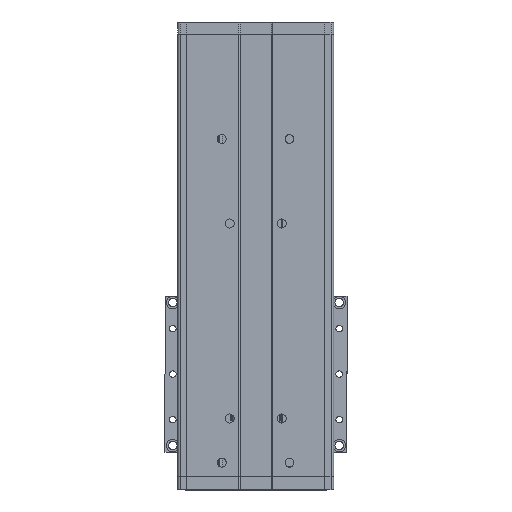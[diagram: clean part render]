
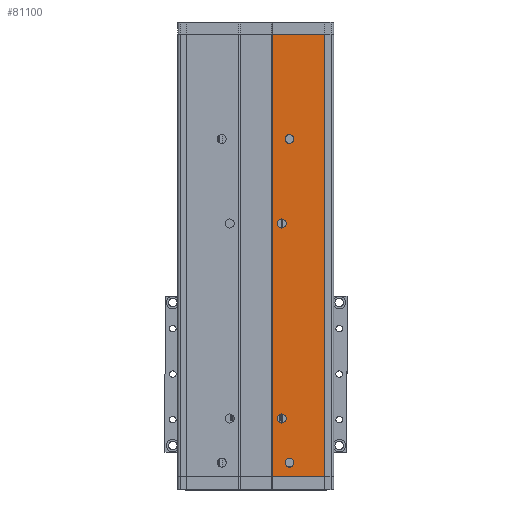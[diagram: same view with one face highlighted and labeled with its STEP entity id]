
A CAD part, front view. The second image highlights one B-rep face of the part: STEP entity #81100.
In plain terms, the highlighted planar face has unit normal (0, -1, 0).
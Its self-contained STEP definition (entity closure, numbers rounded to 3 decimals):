
#1641 = PLANE ( 'NONE',  #32816 ) ;
#1648 = FACE_BOUND ( 'NONE', #117626, .T. ) ;
#1696 = DIRECTION ( 'NONE',  ( 0., 1., 0. ) ) ;
#1882 = DIRECTION ( 'NONE',  ( 1., 0., 0. ) ) ;
#3020 = CARTESIAN_POINT ( 'NONE',  ( 38.31, -28.09, 260. ) ) ;
#5729 = DIRECTION ( 'NONE',  ( 0., 0., -1. ) ) ;
#6314 = AXIS2_PLACEMENT_3D ( 'NONE', #12630, #81931, #22579 ) ;
#7341 = EDGE_CURVE ( 'NONE', #93648, #80914, #27056, .T. ) ;
#7578 = EDGE_LOOP ( 'NONE', ( #73371, #21818 ) ) ;
#8460 = ORIENTED_EDGE ( 'NONE', *, *, #27879, .T. ) ;
#9370 = CARTESIAN_POINT ( 'NONE',  ( 32.31, -28.09, 48.5 ) ) ;
#9513 = VERTEX_POINT ( 'NONE', #40676 ) ;
#9608 = VERTEX_POINT ( 'NONE', #121210 ) ;
#10252 = AXIS2_PLACEMENT_3D ( 'NONE', #89821, #30478, #99817 ) ;
#11600 = DIRECTION ( 'NONE',  ( 0., 1., 0. ) ) ;
#12630 = CARTESIAN_POINT ( 'NONE',  ( 38.31, -28.09, 11. ) ) ;
#13024 = DIRECTION ( 'NONE',  ( 0., 0., 1. ) ) ;
#13619 = ORIENTED_EDGE ( 'NONE', *, *, #124276, .T. ) ;
#14306 = EDGE_CURVE ( 'NONE', #123523, #9513, #63266, .T. ) ;
#17138 = ORIENTED_EDGE ( 'NONE', *, *, #57647, .F. ) ;
#17537 = EDGE_CURVE ( 'NONE', #71775, #36562, #70233, .T. ) ;
#17565 = CARTESIAN_POINT ( 'NONE',  ( 32.31, -28.09, 195. ) ) ;
#21767 = FACE_BOUND ( 'NONE', #7578, .T. ) ;
#21818 = ORIENTED_EDGE ( 'NONE', *, *, #37531, .F. ) ;
#22579 = DIRECTION ( 'NONE',  ( 0., 0., 1. ) ) ;
#24185 = LINE ( 'NONE', #74619, #76897 ) ;
#26236 = ORIENTED_EDGE ( 'NONE', *, *, #32030, .T. ) ;
#27056 = CIRCLE ( 'NONE', #6314, 3.4 ) ;
#27541 = DIRECTION ( 'NONE',  ( 0., 0., 1. ) ) ;
#27684 = CARTESIAN_POINT ( 'NONE',  ( 32.31, -28.09, 191.5 ) ) ;
#27879 = EDGE_CURVE ( 'NONE', #9608, #89240, #60793, .T. ) ;
#30361 = EDGE_LOOP ( 'NONE', ( #13619, #8460 ) ) ;
#30478 = DIRECTION ( 'NONE',  ( 0., 1., 0. ) ) ;
#31620 = VECTOR ( 'NONE', #104703, 1000. ) ;
#31711 = CARTESIAN_POINT ( 'NONE',  ( 32.31, -28.09, 45. ) ) ;
#32030 = EDGE_CURVE ( 'NONE', #57520, #56541, #88155, .T. ) ;
#32816 = AXIS2_PLACEMENT_3D ( 'NONE', #100443, #11600, #80896 ) ;
#35452 = EDGE_CURVE ( 'NONE', #48220, #44762, #107734, .T. ) ;
#36562 = VERTEX_POINT ( 'NONE', #108648 ) ;
#37149 = CARTESIAN_POINT ( 'NONE',  ( 65.31, -28.09, 340. ) ) ;
#37531 = EDGE_CURVE ( 'NONE', #9513, #123523, #107841, .T. ) ;
#38749 = CARTESIAN_POINT ( 'NONE',  ( 25.31, -28.09, 0. ) ) ;
#40676 = CARTESIAN_POINT ( 'NONE',  ( 38.31, -28.09, 263.4 ) ) ;
#40709 = ORIENTED_EDGE ( 'NONE', *, *, #78129, .T. ) ;
#41673 = DIRECTION ( 'NONE',  ( 0., 0., 1. ) ) ;
#41750 = CARTESIAN_POINT ( 'NONE',  ( 65.31, -28.09, 340. ) ) ;
#43767 = ORIENTED_EDGE ( 'NONE', *, *, #17537, .T. ) ;
#43911 = VECTOR ( 'NONE', #85008, 1000. ) ;
#44762 = VERTEX_POINT ( 'NONE', #37149 ) ;
#48163 = FACE_OUTER_BOUND ( 'NONE', #78605, .T. ) ;
#48184 = CARTESIAN_POINT ( 'NONE',  ( 38.31, -28.09, 260. ) ) ;
#48220 = VERTEX_POINT ( 'NONE', #51540 ) ;
#48667 = DIRECTION ( 'NONE',  ( 0., -1., 0. ) ) ;
#49060 = AXIS2_PLACEMENT_3D ( 'NONE', #3020, #72339, #13024 ) ;
#51540 = CARTESIAN_POINT ( 'NONE',  ( 25.31, -28.09, 340. ) ) ;
#53846 = CIRCLE ( 'NONE', #10252, 3.5 ) ;
#54009 = EDGE_CURVE ( 'NONE', #44762, #36562, #24185, .T. ) ;
#55294 = AXIS2_PLACEMENT_3D ( 'NONE', #17565, #86881, #27541 ) ;
#56541 = VERTEX_POINT ( 'NONE', #27684 ) ;
#57231 = CIRCLE ( 'NONE', #109804, 3.4 ) ;
#57520 = VERTEX_POINT ( 'NONE', #65560 ) ;
#57647 = EDGE_CURVE ( 'NONE', #80914, #93648, #57231, .T. ) ;
#57967 = LINE ( 'NONE', #84733, #31620 ) ;
#58135 = DIRECTION ( 'NONE',  ( 0., 0., 1. ) ) ;
#60793 = CIRCLE ( 'NONE', #107931, 3.5 ) ;
#61067 = CARTESIAN_POINT ( 'NONE',  ( 32.31, -28.09, 195. ) ) ;
#61379 = AXIS2_PLACEMENT_3D ( 'NONE', #48184, #117529, #58135 ) ;
#63266 = CIRCLE ( 'NONE', #49060, 3.4 ) ;
#65560 = CARTESIAN_POINT ( 'NONE',  ( 32.31, -28.09, 198.5 ) ) ;
#67617 = EDGE_LOOP ( 'NONE', ( #17138, #100382 ) ) ;
#70233 = LINE ( 'NONE', #75055, #43911 ) ;
#70998 = DIRECTION ( 'NONE',  ( 0., 0., 1. ) ) ;
#71775 = VERTEX_POINT ( 'NONE', #38749 ) ;
#72339 = DIRECTION ( 'NONE',  ( 0., -1., 0. ) ) ;
#73371 = ORIENTED_EDGE ( 'NONE', *, *, #14306, .F. ) ;
#73585 = ORIENTED_EDGE ( 'NONE', *, *, #121034, .T. ) ;
#74619 = CARTESIAN_POINT ( 'NONE',  ( 65.31, -28.09, 340. ) ) ;
#75055 = CARTESIAN_POINT ( 'NONE',  ( 65.31, -28.09, 0. ) ) ;
#76897 = VECTOR ( 'NONE', #5729, 1000. ) ;
#77957 = CARTESIAN_POINT ( 'NONE',  ( 38.31, -28.09, 7.6 ) ) ;
#78129 = EDGE_CURVE ( 'NONE', #48220, #71775, #57967, .T. ) ;
#78605 = EDGE_LOOP ( 'NONE', ( #43767, #120173, #115841, #40709 ) ) ;
#80896 = DIRECTION ( 'NONE',  ( 0., 0., 1. ) ) ;
#80914 = VERTEX_POINT ( 'NONE', #77957 ) ;
#81100 = ADVANCED_FACE ( 'NONE', ( #1648, #107102, #124146, #21767, #48163 ), #1641, .F. ) ;
#81326 = VECTOR ( 'NONE', #1882, 1000. ) ;
#81931 = DIRECTION ( 'NONE',  ( 0., -1., 0. ) ) ;
#84733 = CARTESIAN_POINT ( 'NONE',  ( 25.31, -28.09, 340. ) ) ;
#85008 = DIRECTION ( 'NONE',  ( 1., 0., 0. ) ) ;
#86881 = DIRECTION ( 'NONE',  ( 0., 1., 0. ) ) ;
#86993 = CARTESIAN_POINT ( 'NONE',  ( 38.31, -28.09, 256.6 ) ) ;
#88155 = CIRCLE ( 'NONE', #55294, 3.5 ) ;
#89240 = VERTEX_POINT ( 'NONE', #9370 ) ;
#89821 = CARTESIAN_POINT ( 'NONE',  ( 32.31, -28.09, 45. ) ) ;
#93648 = VERTEX_POINT ( 'NONE', #112682 ) ;
#99817 = DIRECTION ( 'NONE',  ( 0., 0., 1. ) ) ;
#100382 = ORIENTED_EDGE ( 'NONE', *, *, #7341, .F. ) ;
#100443 = CARTESIAN_POINT ( 'NONE',  ( 65.31, -28.09, 340. ) ) ;
#101039 = DIRECTION ( 'NONE',  ( 0., 1., 0. ) ) ;
#104703 = DIRECTION ( 'NONE',  ( 0., 0., -1. ) ) ;
#107102 = FACE_BOUND ( 'NONE', #30361, .T. ) ;
#107207 = CIRCLE ( 'NONE', #109739, 3.5 ) ;
#107734 = LINE ( 'NONE', #41750, #81326 ) ;
#107841 = CIRCLE ( 'NONE', #61379, 3.4 ) ;
#107931 = AXIS2_PLACEMENT_3D ( 'NONE', #31711, #101039, #41673 ) ;
#108033 = CARTESIAN_POINT ( 'NONE',  ( 38.31, -28.09, 11. ) ) ;
#108648 = CARTESIAN_POINT ( 'NONE',  ( 65.31, -28.09, 0. ) ) ;
#109739 = AXIS2_PLACEMENT_3D ( 'NONE', #61067, #1696, #70998 ) ;
#109804 = AXIS2_PLACEMENT_3D ( 'NONE', #108033, #48667, #118011 ) ;
#112682 = CARTESIAN_POINT ( 'NONE',  ( 38.31, -28.09, 14.4 ) ) ;
#115841 = ORIENTED_EDGE ( 'NONE', *, *, #35452, .F. ) ;
#117529 = DIRECTION ( 'NONE',  ( 0., -1., 0. ) ) ;
#117626 = EDGE_LOOP ( 'NONE', ( #26236, #73585 ) ) ;
#118011 = DIRECTION ( 'NONE',  ( 0., 0., 1. ) ) ;
#120173 = ORIENTED_EDGE ( 'NONE', *, *, #54009, .F. ) ;
#121034 = EDGE_CURVE ( 'NONE', #56541, #57520, #107207, .T. ) ;
#121210 = CARTESIAN_POINT ( 'NONE',  ( 32.31, -28.09, 41.5 ) ) ;
#123523 = VERTEX_POINT ( 'NONE', #86993 ) ;
#124146 = FACE_BOUND ( 'NONE', #67617, .T. ) ;
#124276 = EDGE_CURVE ( 'NONE', #89240, #9608, #53846, .T. ) ;
